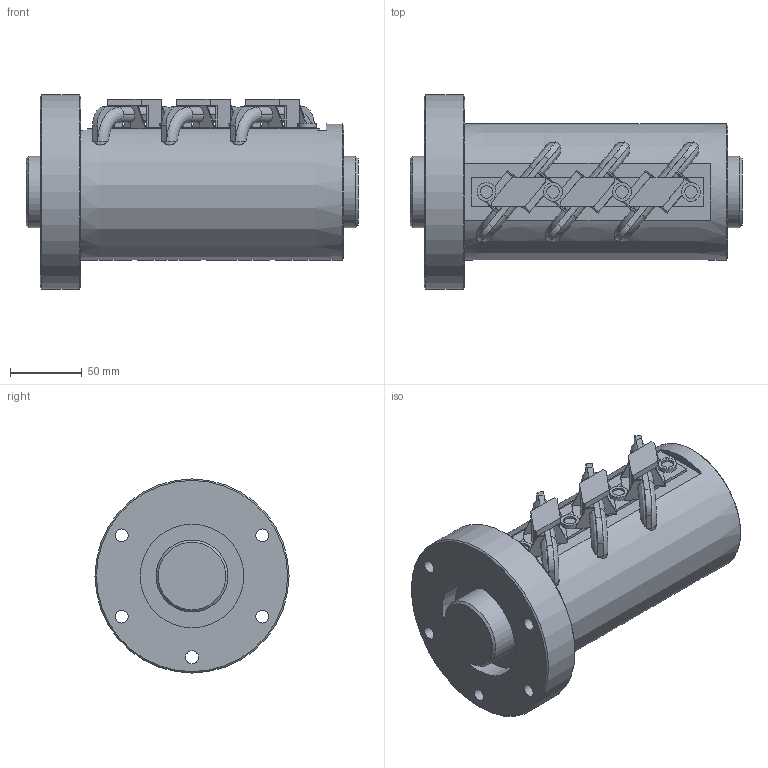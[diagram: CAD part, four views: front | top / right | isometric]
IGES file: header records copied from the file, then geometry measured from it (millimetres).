
Start section: Data from Parasolid IGES Translator 26.0.171, Copyright(c) 2006 Siemens PLM Software. All Rights Reserved.
Global section: file name: HBN5016-7.5RRG2+231LC0(0G200)_rev.igs; native system: By Siemens PLM Incorporated; preprocessor: XPlus GENERIC/IGES 26.0.171; author: Noname; organization: Noname; date: 20240704.081756; units: millimetre
Bounding box: 231 x 135 x 135 mm (x, y, z)
Surface area: 192944.9 mm2 (no closed solid volume)
Topology: 0 solids, 0 shells, 276 faces, 1683 edges, 1634 vertices
Faces by surface type: extrusion 202, revolution 74
